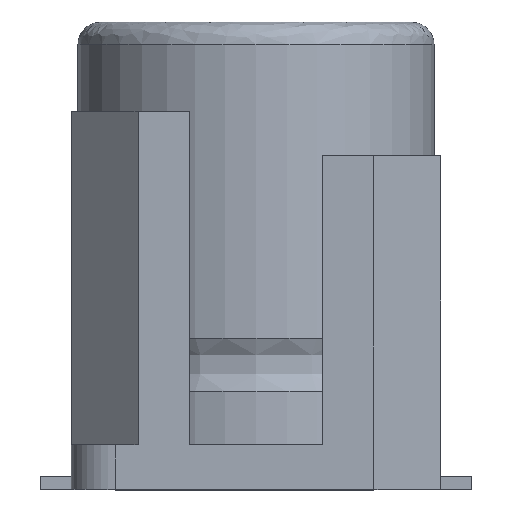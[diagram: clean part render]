
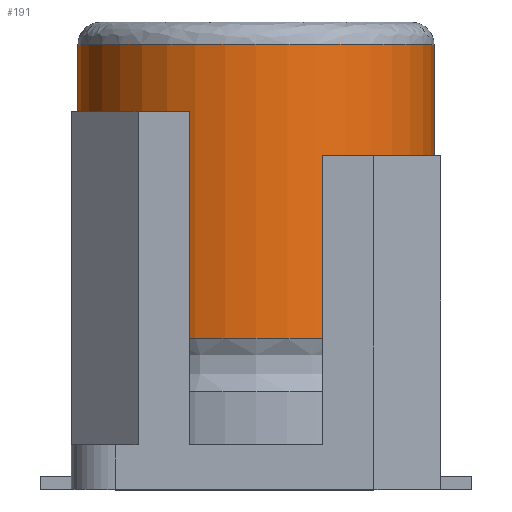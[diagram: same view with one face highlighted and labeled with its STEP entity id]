
A CAD part, top view. The second image highlights one B-rep face of the part: STEP entity #191.
In plain terms, the highlighted cylindrical face has radius 4 mm (diameter 8 mm), a partial arc.
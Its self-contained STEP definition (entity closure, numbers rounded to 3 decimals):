
#80 = EDGE_CURVE ( 'NONE', #1858, #217, #1314, .T. ) ;
#191 = ADVANCED_FACE ( 'NONE', ( #2469 ), #2215, .T. ) ;
#217 = VERTEX_POINT ( 'NONE', #5106 ) ;
#471 = DIRECTION ( 'NONE',  ( 1., 0., 0. ) ) ;
#612 = CARTESIAN_POINT ( 'NONE',  ( 0., 3.4, 0. ) ) ;
#793 = VECTOR ( 'NONE', #6071, 1000. ) ;
#940 = ORIENTED_EDGE ( 'NONE', *, *, #4104, .T. ) ;
#1212 = CARTESIAN_POINT ( 'NONE',  ( 4., 10.5, 0. ) ) ;
#1314 = LINE ( 'NONE', #1212, #793 ) ;
#1598 = ORIENTED_EDGE ( 'NONE', *, *, #4726, .T. ) ;
#1858 = VERTEX_POINT ( 'NONE', #6784 ) ;
#1932 = DIRECTION ( 'NONE',  ( 1., 0., 0. ) ) ;
#2005 = DIRECTION ( 'NONE',  ( 1., 0., 0. ) ) ;
#2028 = ORIENTED_EDGE ( 'NONE', *, *, #80, .F. ) ;
#2086 = CARTESIAN_POINT ( 'NONE',  ( -4., 3.4, 0. ) ) ;
#2203 = ORIENTED_EDGE ( 'NONE', *, *, #5257, .T. ) ;
#2215 = CYLINDRICAL_SURFACE ( 'NONE', #4347, 4. ) ;
#2330 = CARTESIAN_POINT ( 'NONE',  ( -4., 10.5, 0. ) ) ;
#2415 = EDGE_LOOP ( 'NONE', ( #1598, #940, #2203, #2028 ) ) ;
#2469 = FACE_OUTER_BOUND ( 'NONE', #2415, .T. ) ;
#2677 = LINE ( 'NONE', #2330, #3583 ) ;
#2976 = DIRECTION ( 'NONE',  ( 0., -1., 0. ) ) ;
#3135 = DIRECTION ( 'NONE',  ( 0., -1., 0. ) ) ;
#3583 = VECTOR ( 'NONE', #4444, 1000. ) ;
#3899 = CIRCLE ( 'NONE', #4155, 4. ) ;
#3909 = VERTEX_POINT ( 'NONE', #6352 ) ;
#3957 = DIRECTION ( 'NONE',  ( 0., 1., 0. ) ) ;
#4104 = EDGE_CURVE ( 'NONE', #3909, #5069, #2677, .T. ) ;
#4155 = AXIS2_PLACEMENT_3D ( 'NONE', #4765, #3135, #471 ) ;
#4347 = AXIS2_PLACEMENT_3D ( 'NONE', #5598, #2976, #1932 ) ;
#4444 = DIRECTION ( 'NONE',  ( 0., -1., 0. ) ) ;
#4726 = EDGE_CURVE ( 'NONE', #1858, #3909, #3899, .T. ) ;
#4765 = CARTESIAN_POINT ( 'NONE',  ( 0., 10., 0. ) ) ;
#5069 = VERTEX_POINT ( 'NONE', #2086 ) ;
#5106 = CARTESIAN_POINT ( 'NONE',  ( 4., 3.4, 0. ) ) ;
#5257 = EDGE_CURVE ( 'NONE', #5069, #217, #5715, .T. ) ;
#5598 = CARTESIAN_POINT ( 'NONE',  ( 0., 10.5, 0. ) ) ;
#5715 = CIRCLE ( 'NONE', #6529, 4. ) ;
#6071 = DIRECTION ( 'NONE',  ( 0., -1., 0. ) ) ;
#6352 = CARTESIAN_POINT ( 'NONE',  ( -4., 10., 0. ) ) ;
#6529 = AXIS2_PLACEMENT_3D ( 'NONE', #612, #3957, #2005 ) ;
#6784 = CARTESIAN_POINT ( 'NONE',  ( 4., 10., 0. ) ) ;
